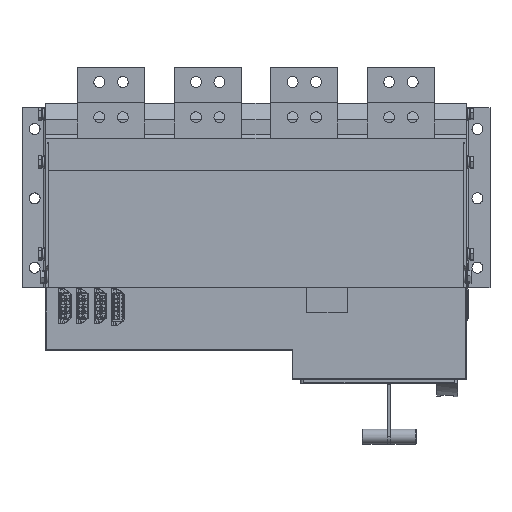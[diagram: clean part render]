
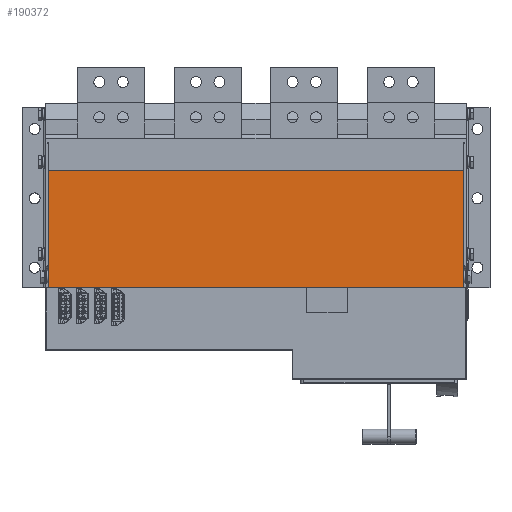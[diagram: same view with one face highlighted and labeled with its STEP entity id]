
A CAD part, top view. The second image highlights one B-rep face of the part: STEP entity #190372.
In plain terms, the highlighted planar face has unit normal (0, 0, 1).
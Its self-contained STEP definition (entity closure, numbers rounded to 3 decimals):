
#3914 = VECTOR ( 'NONE', #79188, 1000. ) ;
#8250 = EDGE_CURVE ( 'NONE', #51578, #33062, #201566, .T. ) ;
#18586 = CARTESIAN_POINT ( 'NONE',  ( 173.662, 494., 224.963 ) ) ;
#21363 = VECTOR ( 'NONE', #114433, 1000. ) ;
#25472 = DIRECTION ( 'NONE',  ( 0., 0., 1. ) ) ;
#31670 = FACE_OUTER_BOUND ( 'NONE', #195310, .T. ) ;
#32978 = DIRECTION ( 'NONE',  ( 1., 0., 0. ) ) ;
#33062 = VERTEX_POINT ( 'NONE', #18586 ) ;
#43459 = ORIENTED_EDGE ( 'NONE', *, *, #232740, .T. ) ;
#51578 = VERTEX_POINT ( 'NONE', #251259 ) ;
#52164 = ORIENTED_EDGE ( 'NONE', *, *, #85117, .T. ) ;
#65211 = AXIS2_PLACEMENT_3D ( 'NONE', #192836, #25472, #32978 ) ;
#66902 = VERTEX_POINT ( 'NONE', #263175 ) ;
#73309 = LINE ( 'NONE', #199672, #212908 ) ;
#79188 = DIRECTION ( 'NONE',  ( 1., 0., 0. ) ) ;
#82922 = ORIENTED_EDGE ( 'NONE', *, *, #173228, .F. ) ;
#85117 = EDGE_CURVE ( 'NONE', #105455, #66902, #155617, .T. ) ;
#97346 = VECTOR ( 'NONE', #163570, 1000. ) ;
#105455 = VERTEX_POINT ( 'NONE', #120674 ) ;
#114433 = DIRECTION ( 'NONE',  ( 1., 0., 0. ) ) ;
#119139 = CARTESIAN_POINT ( 'NONE',  ( 0., 494., 224.963 ) ) ;
#120674 = CARTESIAN_POINT ( 'NONE',  ( 33.662, 0., 224.963 ) ) ;
#121368 = ORIENTED_EDGE ( 'NONE', *, *, #8250, .F. ) ;
#123633 = CARTESIAN_POINT ( 'NONE',  ( 33.662, 0., 224.963 ) ) ;
#144951 = LINE ( 'NONE', #123633, #97346 ) ;
#155617 = LINE ( 'NONE', #256734, #21363 ) ;
#163570 = DIRECTION ( 'NONE',  ( 0., -1., 0. ) ) ;
#173228 = EDGE_CURVE ( 'NONE', #33062, #66902, #73309, .T. ) ;
#190372 = ADVANCED_FACE ( 'NONE', ( #31670 ), #216739, .T. ) ;
#192836 = CARTESIAN_POINT ( 'NONE',  ( 33.662, 0., 224.963 ) ) ;
#195310 = EDGE_LOOP ( 'NONE', ( #82922, #121368, #43459, #52164 ) ) ;
#199672 = CARTESIAN_POINT ( 'NONE',  ( 173.662, 0., 224.963 ) ) ;
#201566 = LINE ( 'NONE', #119139, #3914 ) ;
#212908 = VECTOR ( 'NONE', #260893, 1000. ) ;
#216739 = PLANE ( 'NONE',  #65211 ) ;
#232740 = EDGE_CURVE ( 'NONE', #51578, #105455, #144951, .T. ) ;
#251259 = CARTESIAN_POINT ( 'NONE',  ( 33.662, 494., 224.963 ) ) ;
#256734 = CARTESIAN_POINT ( 'NONE',  ( 0., 0., 224.963 ) ) ;
#260893 = DIRECTION ( 'NONE',  ( 0., -1., 0. ) ) ;
#263175 = CARTESIAN_POINT ( 'NONE',  ( 173.662, 0., 224.963 ) ) ;
